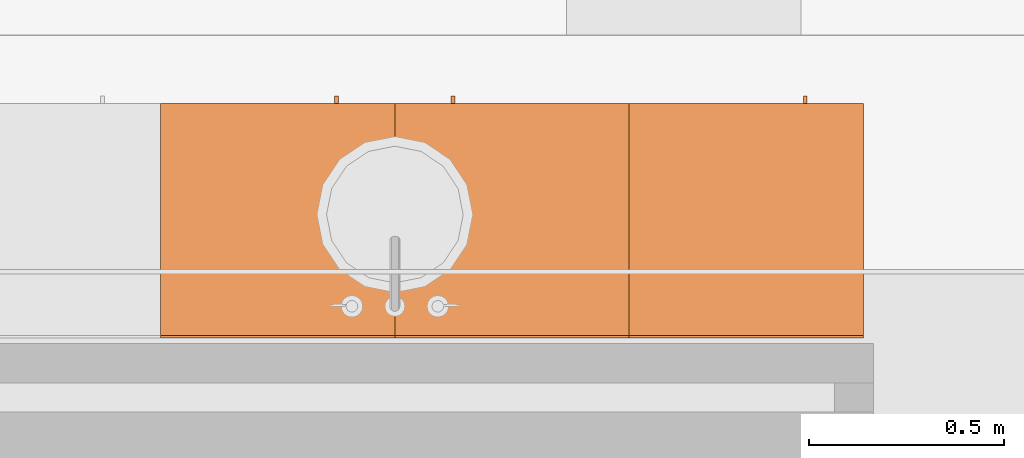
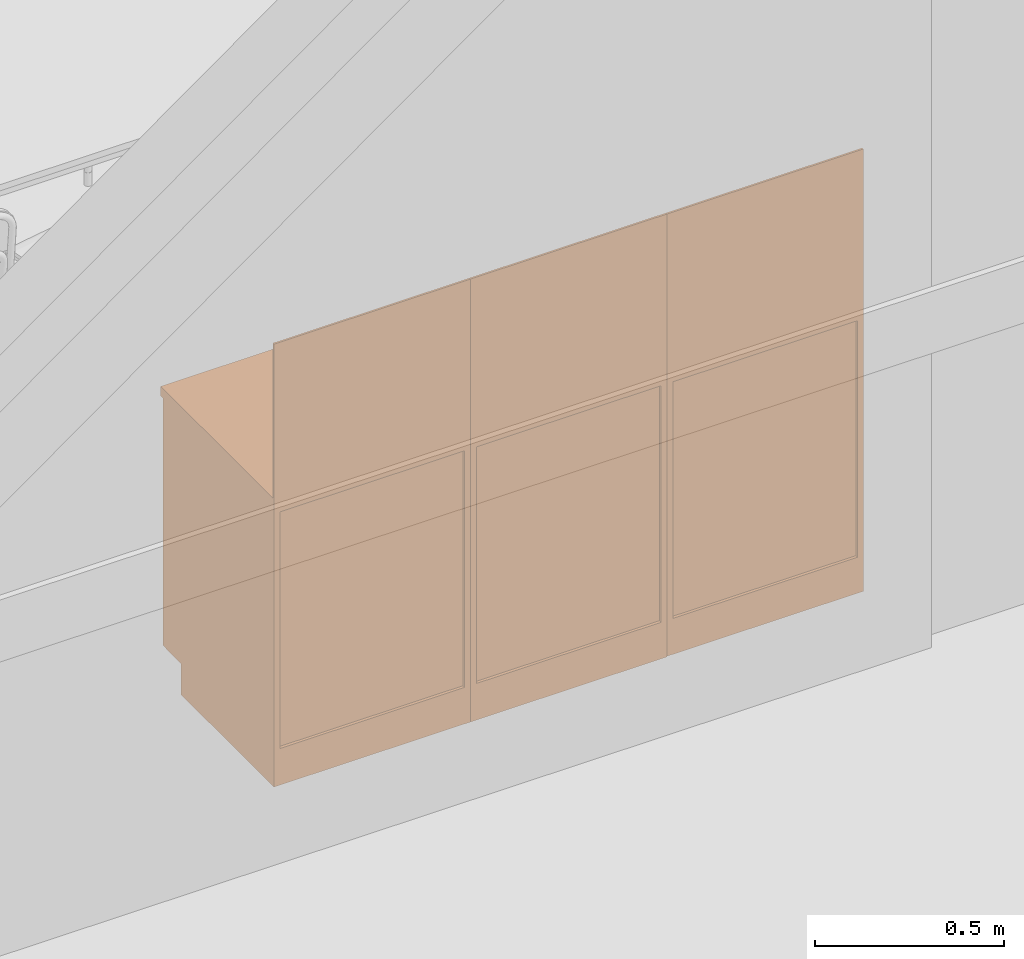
# One storey, part 341 of 347: 3 proxies.
"""IFC2X3 building model written with IfcOpenShell, lengths in millimetres."""

from ifc_helpers import new_model, entity, si_unit, converted_unit, derived_unit, money_unit, direction, frame, origin_with_axes, place, context, subcontext, project, spatial, faceted_brep, type_object, element, save


model = new_model("IFC2X3")

# Units and contexts
model_context = context("Model", 3, precision=0.01, world=origin_with_axes(), true_north=direction((0.0, 1.0)))
plan_context = context("Plan", 3, precision=0.01, world=origin_with_axes(), true_north=direction((0.0, 1.0)))
body_context = subcontext(model_context, "Body", "Model", "MODEL_VIEW")
ifc_project = project(units=[si_unit("LENGTHUNIT", "METRE", prefix="MILLI"), si_unit("AREAUNIT", "SQUARE_METRE"), si_unit("VOLUMEUNIT", "CUBIC_METRE"), converted_unit("PLANEANGLEUNIT", "DEGREE", entity("IfcPlaneAngleMeasure", 0.0174532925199), si_unit("PLANEANGLEUNIT", "RADIAN"), dimensions=[0, 0, 0, 0, 0, 0, 0]), money_unit("EUR"), converted_unit("TIMEUNIT", "Year", entity("IfcTimeMeasure", 31556926.0), si_unit("TIMEUNIT", "SECOND"), dimensions=[0, 0, 1, 0, 0, 0, 0]), si_unit("MASSUNIT", "GRAM", prefix="KILO"), si_unit("THERMODYNAMICTEMPERATUREUNIT", "DEGREE_CELSIUS"), si_unit("LUMINOUSINTENSITYUNIT", "LUMEN"), si_unit("ENERGYUNIT", "JOULE", prefix="MEGA"), derived_unit("THERMALCONDUCTANCEUNIT", [(si_unit("POWERUNIT", "WATT"), 1), (si_unit("LENGTHUNIT", "METRE"), -1), (si_unit("THERMODYNAMICTEMPERATUREUNIT", "KELVIN"), -1)]), derived_unit("SPECIFICHEATCAPACITYUNIT", [(si_unit("ENERGYUNIT", "JOULE"), 1), (si_unit("MASSUNIT", "GRAM", prefix="KILO"), -1), (si_unit("THERMODYNAMICTEMPERATUREUNIT", "KELVIN"), -1)]), derived_unit("MASSDENSITYUNIT", [(si_unit("MASSUNIT", "GRAM", prefix="KILO"), 1), (si_unit("VOLUMEUNIT", "CUBIC_METRE"), -1)])], contexts=[model_context, plan_context])

# Site, building, storey
site_placement = place(None, origin_with_axes())
site = spatial("IfcSite", under=ifc_project, at=site_placement, Name="Site", CompositionType="ELEMENT")
building_placement = place(site_placement, origin_with_axes())
building = spatial("IfcBuilding", under=site, at=building_placement, Name="Naam gebouw", CompositionType="ELEMENT")
storey_placement = place(building_placement, origin_with_axes())
storey = spatial("IfcBuildingStorey", under=building, at=storey_placement, Name="begane grond", CompositionType="ELEMENT", Elevation=0.0)

# Proxies
building_element_proxy_type = type_object("IfcBuildingElementProxyType", Name="Onderkast recht 25", PredefinedType="NOTDEFINED")
proxy_1_placement = place(storey_placement, frame((27885.0, 14715.0, 0.0), z_axis=(0.0, 0.0, 1.0), x_axis=(-1.0, 0.0, 0.0)))
element("IfcBuildingElementProxy", 1, at=proxy_1_placement, inside=storey, type_object=building_element_proxy_type, Name="_73 pantryblok", context=body_context, shape_type="Brep", body=[
    faceted_brep([(-600.0, 0.0, 2.0), (-600.0, -492.0, 2.0), (-600.0, -492.0, 100.0), (-600.0, 0.0, 100.0), (0.0, -492.0, 2.0), (0.0, 0.0, 2.0), (0.0, -492.0, 100.0), (0.0, 0.0, 100.0)], [[[0, 1, 2, 3]], [[4, 1, 0, 5]], [[1, 4, 6, 2]], [[2, 6, 7, 3]], [[5, 0, 3, 7]], [[4, 5, 7, 6]]]),
    faceted_brep([(0.0, -600.0, 900.0), (0.0, -600.0, 930.0), (-600.0, -600.0, 930.0), (-600.0, -600.0, 900.0), (0.0, 0.0, 900.0), (0.0, 0.0, 930.0), (-600.0, 0.0, 930.0), (-600.0, 0.0, 900.0)], [[[0, 1, 2, 3]], [[4, 5, 1, 0]], [[1, 5, 6, 2]], [[3, 2, 6, 7]], [[0, 3, 7, 4]], [[7, 6, 5, 4]]]),
    faceted_brep([(-600.0, 0.0, 930.0), (0.0, 0.0, 930.0), (0.0, -6.0, 930.0), (-600.0, -6.0, 930.0), (-600.0, 0.0, 1430.0), (0.0, 0.0, 1430.0), (0.0, -6.0, 1430.0), (-600.0, -6.0, 1430.0)], [[[0, 1, 2, 3]], [[4, 5, 1, 0]], [[1, 5, 6, 2]], [[3, 2, 6, 7]], [[0, 3, 7, 4]], [[7, 6, 5, 4]]]),
    faceted_brep([(-446.0, -590.0, 416.0), (-456.0, -590.0, 416.0), (-456.0, -590.0, 426.0), (-446.0, -590.0, 426.0), (-446.0, -600.0, 416.0), (-456.0, -600.0, 416.0), (-456.0, -603.472963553, 416.30384494), (-456.0, -606.840402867, 417.206147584), (-456.0, -610.0, 418.679491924), (-456.0, -612.855752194, 420.679111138), (-456.0, -615.320888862, 423.144247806), (-456.0, -617.320508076, 426.0), (-456.0, -618.793852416, 429.159597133), (-456.0, -619.69615506, 432.527036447), (-456.0, -620.0, 436.0), (-456.0, -620.0, 516.0), (-456.0, -619.69615506, 519.472963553), (-456.0, -618.793852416, 522.840402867), (-456.0, -617.320508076, 526.0), (-456.0, -615.320888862, 528.855752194), (-456.0, -612.855752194, 531.320888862), (-456.0, -610.0, 533.320508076), (-456.0, -606.840402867, 534.793852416), (-456.0, -603.472963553, 535.69615506), (-456.0, -600.0, 536.0), (-456.0, -590.0, 536.0), (-456.0, -590.0, 526.0), (-456.0, -600.0, 526.0), (-456.0, -601.736481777, 525.84807753), (-456.0, -603.420201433, 525.396926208), (-456.0, -605.0, 524.660254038), (-456.0, -606.427876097, 523.660444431), (-456.0, -607.660444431, 522.427876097), (-456.0, -608.660254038, 521.0), (-456.0, -609.396926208, 519.420201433), (-456.0, -609.84807753, 517.736481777), (-456.0, -610.0, 516.0), (-456.0, -610.0, 436.0), (-456.0, -609.84807753, 434.263518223), (-456.0, -609.396926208, 432.579798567), (-456.0, -608.660254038, 431.0), (-456.0, -607.660444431, 429.572123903), (-456.0, -606.427876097, 428.339555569), (-456.0, -605.0, 427.339745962), (-456.0, -603.420201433, 426.603073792), (-456.0, -601.736481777, 426.15192247), (-456.0, -600.0, 426.0), (-446.0, -600.0, 426.0), (-446.0, -601.736481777, 426.15192247), (-446.0, -603.420201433, 426.603073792), (-446.0, -605.0, 427.339745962), (-446.0, -606.427876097, 428.339555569), (-446.0, -607.660444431, 429.572123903), (-446.0, -608.660254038, 431.0), (-446.0, -609.396926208, 432.579798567), (-446.0, -609.84807753, 434.263518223), (-446.0, -610.0, 436.0), (-446.0, -610.0, 516.0), (-446.0, -609.84807753, 517.736481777), (-446.0, -609.396926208, 519.420201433), (-446.0, -608.660254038, 521.0), (-446.0, -607.660444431, 522.427876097), (-446.0, -606.427876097, 523.660444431), (-446.0, -605.0, 524.660254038), (-446.0, -603.420201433, 525.396926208), (-446.0, -601.736481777, 525.84807753), (-446.0, -600.0, 526.0), (-446.0, -590.0, 526.0), (-446.0, -590.0, 536.0), (-446.0, -600.0, 536.0), (-446.0, -603.472963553, 535.69615506), (-446.0, -606.840402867, 534.793852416), (-446.0, -610.0, 533.320508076), (-446.0, -612.855752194, 531.320888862), (-446.0, -615.320888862, 528.855752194), (-446.0, -617.320508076, 526.0), (-446.0, -618.793852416, 522.840402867), (-446.0, -619.69615506, 519.472963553), (-446.0, -620.0, 516.0), (-446.0, -620.0, 436.0), (-446.0, -619.69615506, 432.527036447), (-446.0, -618.793852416, 429.159597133), (-446.0, -617.320508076, 426.0), (-446.0, -615.320888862, 423.144247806), (-446.0, -612.855752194, 420.679111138), (-446.0, -610.0, 418.679491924), (-446.0, -606.840402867, 417.206147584), (-446.0, -603.472963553, 416.30384494)], [[[0, 1, 2, 3]], [[4, 5, 1, 0]], [[1, 5, 6, 7, 8, 9, 10, 11, 12, 13, 14, 15, 16, 17, 18, 19, 20, 21, 22, 23, 24, 25, 26, 27, 28, 29, 30, 31, 32, 33, 34, 35, 36, 37, 38, 39, 40, 41, 42, 43, 44, 45, 46, 2]], [[3, 2, 46, 47]], [[0, 3, 47, 48, 49, 50, 51, 52, 53, 54, 55, 56, 57, 58, 59, 60, 61, 62, 63, 64, 65, 66, 67, 68, 69, 70, 71, 72, 73, 74, 75, 76, 77, 78, 79, 80, 81, 82, 83, 84, 85, 86, 87, 4]], [[87, 6, 5, 4]], [[86, 7, 6, 87]], [[85, 8, 7, 86]], [[84, 9, 8, 85]], [[83, 10, 9, 84]], [[82, 11, 10, 83]], [[81, 12, 11, 82]], [[80, 13, 12, 81]], [[79, 14, 13, 80]], [[78, 15, 14, 79]], [[77, 16, 15, 78]], [[76, 17, 16, 77]], [[75, 18, 17, 76]], [[74, 19, 18, 75]], [[73, 20, 19, 74]], [[72, 21, 20, 73]], [[71, 22, 21, 72]], [[70, 23, 22, 71]], [[69, 24, 23, 70]], [[68, 25, 24, 69]], [[67, 26, 25, 68]], [[66, 27, 26, 67]], [[65, 28, 27, 66]], [[64, 29, 28, 65]], [[63, 30, 29, 64]], [[62, 31, 30, 63]], [[61, 32, 31, 62]], [[60, 33, 32, 61]], [[59, 34, 33, 60]], [[58, 35, 34, 59]], [[57, 36, 35, 58]], [[56, 37, 36, 57]], [[55, 38, 37, 56]], [[54, 39, 38, 55]], [[53, 40, 39, 54]], [[52, 41, 40, 53]], [[51, 42, 41, 52]], [[50, 43, 42, 51]], [[49, 44, 43, 50]], [[48, 45, 44, 49]], [[47, 46, 45, 48]]]),
    faceted_brep([(-1.0, -572.0, 101.0), (-1.0, -590.0, 101.0), (-599.0, -590.0, 101.0), (-599.0, -572.0, 101.0), (-1.0, -572.0, 899.0), (-1.0, -590.0, 899.0), (-599.0, -590.0, 899.0), (-599.0, -572.0, 899.0)], [[[0, 1, 2, 3]], [[4, 5, 1, 0]], [[1, 5, 6, 2]], [[3, 2, 6, 7]], [[0, 3, 7, 4]], [[7, 6, 5, 4]]]),
    faceted_brep([(-18.0, -572.0, 100.0), (-18.0, -572.0, 118.0), (-582.0, -572.0, 118.0), (-582.0, -572.0, 100.0), (-18.0, 0.0, 100.0), (-18.0, 0.0, 118.0), (-582.0, 0.0, 118.0), (-582.0, 0.0, 100.0)], [[[0, 1, 2, 3]], [[4, 5, 1, 0]], [[1, 5, 6, 2]], [[3, 2, 6, 7]], [[0, 3, 7, 4]], [[7, 6, 5, 4]]]),
    faceted_brep([(-18.0, -572.0, 882.0), (-582.0, -572.0, 882.0), (-582.0, -512.0, 882.0), (-18.0, -512.0, 882.0), (-18.0, -572.0, 900.0), (-582.0, -572.0, 900.0), (-582.0, -512.0, 900.0), (-18.0, -512.0, 900.0)], [[[0, 1, 2, 3]], [[4, 5, 1, 0]], [[1, 5, 6, 2]], [[3, 2, 6, 7]], [[0, 3, 7, 4]], [[7, 6, 5, 4]]]),
    faceted_brep([(-582.0, 0.0, 882.0), (-18.0, 0.0, 882.0), (-18.0, -60.0, 882.0), (-582.0, -60.0, 882.0), (-582.0, 0.0, 900.0), (-18.0, 0.0, 900.0), (-18.0, -60.0, 900.0), (-582.0, -60.0, 900.0)], [[[0, 1, 2, 3]], [[4, 5, 1, 0]], [[1, 5, 6, 2]], [[3, 2, 6, 7]], [[0, 3, 7, 4]], [[7, 6, 5, 4]]]),
    faceted_brep([(0.0, 0.0, 100.0), (0.0, 0.0, 900.0), (0.0, -572.0, 900.0), (0.0, -572.0, 100.0), (-18.0, 0.0, 100.0), (-18.0, 0.0, 900.0), (-18.0, -572.0, 900.0), (-18.0, -572.0, 100.0)], [[[0, 1, 2, 3]], [[4, 5, 1, 0]], [[1, 5, 6, 2]], [[3, 2, 6, 7]], [[0, 3, 7, 4]], [[7, 6, 5, 4]]]),
    faceted_brep([(-600.0, -572.0, 100.0), (-600.0, -572.0, 900.0), (-600.0, 0.0, 900.0), (-600.0, 0.0, 100.0), (-582.0, -572.0, 100.0), (-582.0, -572.0, 900.0), (-582.0, 0.0, 900.0), (-582.0, 0.0, 100.0)], [[[0, 1, 2, 3]], [[4, 5, 1, 0]], [[1, 5, 6, 2]], [[3, 2, 6, 7]], [[0, 3, 7, 4]], [[7, 6, 5, 4]]]),
    faceted_brep([(-582.0, -9.0, 118.0), (-582.0, -9.0, 882.0), (-18.0, -9.0, 882.0), (-18.0, -9.0, 118.0), (-582.0, -18.0, 118.0), (-582.0, -18.0, 882.0), (-18.0, -18.0, 882.0), (-18.0, -18.0, 118.0)], [[[0, 1, 2, 3]], [[4, 5, 1, 0]], [[1, 5, 6, 2]], [[3, 2, 6, 7]], [[0, 3, 7, 4]], [[7, 6, 5, 4]]]),
])
proxy_2_placement = place(storey_placement, frame((27885.0, 14715.0, 0.0), z_axis=(0.0, 0.0, 1.0), x_axis=(-1.0, 0.0, 0.0)))
element("IfcBuildingElementProxy", 2, at=proxy_2_placement, inside=storey, type_object=building_element_proxy_type, Name="_73 pantryblok", context=body_context, shape_type="Brep", body=[
    faceted_brep([(472.720779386, -443.066584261, 930.0), (433.701684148, -384.670381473, 930.0), (420.0, -315.787363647, 930.0), (433.701684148, -246.904345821, 930.0), (472.720779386, -188.508143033, 930.0), (531.116982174, -149.489047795, 930.0), (600.0, -135.787363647, 930.0), (600.0, 0.0, 930.0), (0.0, 0.0, 930.0), (0.0, -600.0, 930.0), (600.0, -600.0, 930.0), (600.0, -495.787363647, 930.0), (531.116982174, -482.085679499, 930.0), (472.720779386, -443.066584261, 900.0), (433.701684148, -384.670381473, 900.0), (420.0, -315.787363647, 900.0), (433.701684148, -246.904345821, 900.0), (472.720779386, -188.508143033, 900.0), (531.116982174, -149.489047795, 900.0), (600.0, -135.787363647, 900.0), (600.0, 0.0, 900.0), (0.0, 0.0, 900.0), (0.0, -600.0, 900.0), (600.0, -600.0, 900.0), (600.0, -495.787363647, 900.0), (531.116982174, -482.085679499, 900.0)], [[[0, 1, 2, 3, 4, 5, 6, 7, 8, 9, 10, 11, 12]], [[1, 0, 13, 14]], [[2, 1, 14, 15]], [[3, 2, 15, 16]], [[4, 3, 16, 17]], [[5, 4, 17, 18]], [[6, 5, 18, 19]], [[6, 19, 20, 7]], [[7, 20, 21, 8]], [[8, 21, 22, 9]], [[9, 22, 23, 10]], [[24, 11, 10, 23]], [[12, 11, 24, 25]], [[0, 12, 25, 13]], [[25, 24, 23, 22, 21, 20, 19, 18, 17, 16, 15, 14, 13]]]),
    faceted_brep([(582.0, -572.0, 882.0), (18.0, -572.0, 882.0), (18.0, -512.0, 882.0), (582.0, -512.0, 882.0), (582.0, -572.0, 900.0), (18.0, -572.0, 900.0), (18.0, -512.0, 900.0), (582.0, -512.0, 900.0)], [[[0, 1, 2, 3]], [[4, 5, 1, 0]], [[2, 1, 5, 6]], [[3, 2, 6, 7]], [[4, 0, 3, 7]], [[7, 6, 5, 4]]]),
    faceted_brep([(582.0, -9.0, 882.0), (582.0, -9.0, 118.0), (18.0, -9.0, 118.0), (18.0, -9.0, 882.0), (582.0, -18.0, 882.0), (582.0, -18.0, 118.0), (18.0, -18.0, 118.0), (18.0, -18.0, 882.0)], [[[0, 1, 2, 3]], [[4, 5, 1, 0]], [[2, 1, 5, 6]], [[3, 2, 6, 7]], [[4, 0, 3, 7]], [[7, 6, 5, 4]]]),
    faceted_brep([(18.0, 0.0, 882.0), (582.0, 0.0, 882.0), (582.0, -60.0, 882.0), (18.0, -60.0, 882.0), (18.0, 0.0, 900.0), (582.0, 0.0, 900.0), (582.0, -60.0, 900.0), (18.0, -60.0, 900.0)], [[[0, 1, 2, 3]], [[4, 5, 1, 0]], [[2, 1, 5, 6]], [[3, 2, 6, 7]], [[4, 0, 3, 7]], [[7, 6, 5, 4]]]),
    faceted_brep([(0.0, 0.0, 900.0), (0.0, 0.0, 100.0), (0.0, -572.0, 100.0), (0.0, -572.0, 900.0), (18.0, 0.0, 900.0), (18.0, 0.0, 100.0), (18.0, -572.0, 100.0), (18.0, -572.0, 900.0)], [[[0, 1, 2, 3]], [[4, 5, 1, 0]], [[2, 1, 5, 6]], [[3, 2, 6, 7]], [[4, 0, 3, 7]], [[7, 6, 5, 4]]]),
    faceted_brep([(600.0, -495.787363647, 900.0), (582.0, -492.206941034, 900.0), (582.0, -572.0, 900.0), (600.0, -572.0, 900.0), (582.0, -492.206941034, 730.0), (600.0, -495.787363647, 730.0), (582.0, -139.36778626, 730.0), (582.0, -139.36778626, 900.0), (582.0, 0.0, 900.0), (582.0, 0.0, 100.0), (582.0, -572.0, 100.0), (582.0, -226.53045881, 730.0), (582.0, -226.53045881, 710.0), (582.0, -205.044268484, 710.0), (582.0, -205.044268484, 730.0), (600.0, -572.0, 100.0), (600.0, 0.0, 100.0), (600.0, 0.0, 900.0), (600.0, -135.787363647, 900.0), (600.0, -135.787363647, 730.0), (600.0, -194.787363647, 730.0), (600.0, -194.787363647, 710.0), (600.0, -236.787363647, 710.0), (600.0, -236.787363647, 730.0), (594.564800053, -236.071805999, 730.0), (589.5, -233.973897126, 730.0), (585.150757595, -230.636606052, 730.0), (585.150757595, -230.636606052, 710.0), (589.5, -233.973897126, 710.0), (594.564800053, -236.071805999, 710.0), (594.564800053, -195.502921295, 710.0), (589.5, -197.600830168, 710.0), (585.150757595, -200.938121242, 710.0), (585.150757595, -200.938121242, 730.0), (589.5, -197.600830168, 730.0), (594.564800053, -195.502921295, 730.0)], [[[0, 1, 2, 3]], [[4, 1, 0, 5]], [[6, 7, 8, 9, 10, 2, 1, 4, 11, 12, 13, 14]], [[2, 10, 15, 3]], [[5, 0, 3, 15, 16, 17, 18, 19, 20, 21, 22, 23]], [[11, 4, 5, 23, 24, 25, 26]], [[18, 7, 6, 19]], [[7, 18, 17, 8]], [[17, 16, 9, 8]], [[16, 15, 10, 9]], [[12, 11, 26, 27]], [[13, 12, 27, 28, 29, 22, 21, 30, 31, 32]], [[14, 13, 32, 33]], [[6, 14, 33, 34, 35, 20, 19]], [[20, 35, 30, 21]], [[22, 29, 24, 23]], [[25, 24, 29, 28]], [[26, 25, 28, 27]], [[35, 34, 31, 30]], [[34, 33, 32, 31]]]),
    faceted_brep([(600.0, 0.0, 930.0), (600.0, -6.0, 930.0), (0.0, -6.0, 930.0), (0.0, 0.0, 930.0), (600.0, 0.0, 1430.0), (600.0, -6.0, 1430.0), (0.0, -6.0, 1430.0), (0.0, 0.0, 1430.0)], [[[0, 1, 2, 3]], [[0, 4, 5, 1]], [[1, 5, 6, 2]], [[3, 2, 6, 7]], [[4, 0, 3, 7]], [[5, 4, 7, 6]]]),
    faceted_brep([(446.0, -590.0, 416.0), (446.0, -590.0, 426.0), (456.0, -590.0, 426.0), (456.0, -590.0, 416.0), (446.0, -600.0, 416.0), (446.0, -603.472963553, 416.30384494), (446.0, -606.840402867, 417.206147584), (446.0, -610.0, 418.679491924), (446.0, -612.855752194, 420.679111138), (446.0, -615.320888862, 423.144247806), (446.0, -617.320508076, 426.0), (446.0, -618.793852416, 429.159597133), (446.0, -619.69615506, 432.527036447), (446.0, -620.0, 436.0), (446.0, -620.0, 516.0), (446.0, -619.69615506, 519.472963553), (446.0, -618.793852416, 522.840402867), (446.0, -617.320508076, 526.0), (446.0, -615.320888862, 528.855752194), (446.0, -612.855752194, 531.320888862), (446.0, -610.0, 533.320508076), (446.0, -606.840402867, 534.793852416), (446.0, -603.472963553, 535.69615506), (446.0, -600.0, 536.0), (446.0, -590.0, 536.0), (446.0, -590.0, 526.0), (446.0, -600.0, 526.0), (446.0, -601.736481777, 525.84807753), (446.0, -603.420201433, 525.396926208), (446.0, -605.0, 524.660254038), (446.0, -606.427876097, 523.660444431), (446.0, -607.660444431, 522.427876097), (446.0, -608.660254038, 521.0), (446.0, -609.396926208, 519.420201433), (446.0, -609.84807753, 517.736481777), (446.0, -610.0, 516.0), (446.0, -610.0, 436.0), (446.0, -609.84807753, 434.263518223), (446.0, -609.396926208, 432.579798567), (446.0, -608.660254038, 431.0), (446.0, -607.660444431, 429.572123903), (446.0, -606.427876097, 428.339555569), (446.0, -605.0, 427.339745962), (446.0, -603.420201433, 426.603073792), (446.0, -601.736481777, 426.15192247), (446.0, -600.0, 426.0), (456.0, -600.0, 426.0), (456.0, -601.736481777, 426.15192247), (456.0, -603.420201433, 426.603073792), (456.0, -605.0, 427.339745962), (456.0, -606.427876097, 428.339555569), (456.0, -607.660444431, 429.572123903), (456.0, -608.660254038, 431.0), (456.0, -609.396926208, 432.579798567), (456.0, -609.84807753, 434.263518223), (456.0, -610.0, 436.0), (456.0, -610.0, 516.0), (456.0, -609.84807753, 517.736481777), (456.0, -609.396926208, 519.420201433), (456.0, -608.660254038, 521.0), (456.0, -607.660444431, 522.427876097), (456.0, -606.427876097, 523.660444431), (456.0, -605.0, 524.660254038), (456.0, -603.420201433, 525.396926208), (456.0, -601.736481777, 525.84807753), (456.0, -600.0, 526.0), (456.0, -590.0, 526.0), (456.0, -590.0, 536.0), (456.0, -600.0, 536.0), (456.0, -603.472963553, 535.69615506), (456.0, -606.840402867, 534.793852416), (456.0, -610.0, 533.320508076), (456.0, -612.855752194, 531.320888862), (456.0, -615.320888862, 528.855752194), (456.0, -617.320508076, 526.0), (456.0, -618.793852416, 522.840402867), (456.0, -619.69615506, 519.472963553), (456.0, -620.0, 516.0), (456.0, -620.0, 436.0), (456.0, -619.69615506, 432.527036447), (456.0, -618.793852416, 429.159597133), (456.0, -617.320508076, 426.0), (456.0, -615.320888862, 423.144247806), (456.0, -612.855752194, 420.679111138), (456.0, -610.0, 418.679491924), (456.0, -606.840402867, 417.206147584), (456.0, -603.472963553, 416.30384494), (456.0, -600.0, 416.0)], [[[0, 1, 2, 3]], [[0, 4, 5, 6, 7, 8, 9, 10, 11, 12, 13, 14, 15, 16, 17, 18, 19, 20, 21, 22, 23, 24, 25, 26, 27, 28, 29, 30, 31, 32, 33, 34, 35, 36, 37, 38, 39, 40, 41, 42, 43, 44, 45, 1]], [[1, 45, 46, 2]], [[3, 2, 46, 47, 48, 49, 50, 51, 52, 53, 54, 55, 56, 57, 58, 59, 60, 61, 62, 63, 64, 65, 66, 67, 68, 69, 70, 71, 72, 73, 74, 75, 76, 77, 78, 79, 80, 81, 82, 83, 84, 85, 86, 87]], [[4, 0, 3, 87]], [[5, 4, 87, 86]], [[6, 5, 86, 85]], [[7, 6, 85, 84]], [[8, 7, 84, 83]], [[9, 8, 83, 82]], [[10, 9, 82, 81]], [[11, 10, 81, 80]], [[12, 11, 80, 79]], [[13, 12, 79, 78]], [[14, 13, 78, 77]], [[15, 14, 77, 76]], [[16, 15, 76, 75]], [[17, 16, 75, 74]], [[18, 17, 74, 73]], [[19, 18, 73, 72]], [[20, 19, 72, 71]], [[21, 20, 71, 70]], [[22, 21, 70, 69]], [[23, 22, 69, 68]], [[24, 23, 68, 67]], [[25, 24, 67, 66]], [[26, 25, 66, 65]], [[27, 26, 65, 64]], [[28, 27, 64, 63]], [[29, 28, 63, 62]], [[30, 29, 62, 61]], [[31, 30, 61, 60]], [[32, 31, 60, 59]], [[33, 32, 59, 58]], [[34, 33, 58, 57]], [[35, 34, 57, 56]], [[36, 35, 56, 55]], [[37, 36, 55, 54]], [[38, 37, 54, 53]], [[39, 38, 53, 52]], [[40, 39, 52, 51]], [[41, 40, 51, 50]], [[42, 41, 50, 49]], [[43, 42, 49, 48]], [[44, 43, 48, 47]], [[45, 44, 47, 46]]]),
    faceted_brep([(1.0, -572.0, 101.0), (599.0, -572.0, 101.0), (599.0, -590.0, 101.0), (1.0, -590.0, 101.0), (1.0, -572.0, 899.0), (599.0, -572.0, 899.0), (599.0, -590.0, 899.0), (1.0, -590.0, 899.0)], [[[0, 1, 2, 3]], [[0, 4, 5, 1]], [[1, 5, 6, 2]], [[3, 2, 6, 7]], [[4, 0, 3, 7]], [[5, 4, 7, 6]]]),
    faceted_brep([(18.0, -572.0, 100.0), (582.0, -572.0, 100.0), (582.0, -572.0, 118.0), (18.0, -572.0, 118.0), (18.0, 0.0, 100.0), (582.0, 0.0, 100.0), (582.0, 0.0, 118.0), (18.0, 0.0, 118.0)], [[[0, 1, 2, 3]], [[0, 4, 5, 1]], [[1, 5, 6, 2]], [[3, 2, 6, 7]], [[4, 0, 3, 7]], [[5, 4, 7, 6]]]),
    faceted_brep([(0.0, -492.0, 0.0), (600.0, -492.0, 0.0), (600.0, -492.0, 100.0), (0.0, -492.0, 100.0), (0.0, 0.0, 0.0), (600.0, 0.0, 0.0), (600.0, 0.0, 100.0), (0.0, 0.0, 100.0)], [[[0, 1, 2, 3]], [[0, 4, 5, 1]], [[1, 5, 6, 2]], [[3, 2, 6, 7]], [[4, 0, 3, 7]], [[5, 4, 7, 6]]]),
])
proxy_3_placement = place(storey_placement, frame((26685.0, 14715.0, 0.0), z_axis=(0.0, 0.0, 1.0), x_axis=(-1.0, 0.0, 0.0)))
element("IfcBuildingElementProxy", 3, at=proxy_3_placement, inside=storey, type_object=building_element_proxy_type, Name="_73 pantryblok", context=body_context, shape_type="Brep", body=[
    faceted_brep([(-472.720779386, -443.066584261, 930.0), (-531.116982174, -482.085679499, 930.0), (-600.0, -495.787363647, 930.0), (-600.0, -600.0, 930.0), (0.0, -600.0, 930.0), (0.0, 0.0, 930.0), (-600.0, 0.0, 930.0), (-600.0, -135.787363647, 930.0), (-531.116982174, -149.489047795, 930.0), (-472.720779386, -188.508143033, 930.0), (-433.701684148, -246.904345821, 930.0), (-420.0, -315.787363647, 930.0), (-433.701684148, -384.670381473, 930.0), (-472.720779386, -443.066584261, 900.0), (-531.116982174, -482.085679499, 900.0), (-600.0, -495.787363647, 900.0), (-600.0, -600.0, 900.0), (0.0, -600.0, 900.0), (0.0, 0.0, 900.0), (-600.0, 0.0, 900.0), (-600.0, -135.787363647, 900.0), (-531.116982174, -149.489047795, 900.0), (-472.720779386, -188.508143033, 900.0), (-433.701684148, -246.904345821, 900.0), (-420.0, -315.787363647, 900.0), (-433.701684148, -384.670381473, 900.0)], [[[0, 1, 2, 3, 4, 5, 6, 7, 8, 9, 10, 11, 12]], [[1, 0, 13, 14]], [[2, 1, 14, 15]], [[2, 15, 16, 3]], [[16, 17, 4, 3]], [[17, 18, 5, 4]], [[18, 19, 6, 5]], [[20, 7, 6, 19]], [[8, 7, 20, 21]], [[9, 8, 21, 22]], [[10, 9, 22, 23]], [[11, 10, 23, 24]], [[12, 11, 24, 25]], [[0, 12, 25, 13]], [[21, 20, 19, 18, 17, 16, 15, 14, 13, 25, 24, 23, 22]]]),
    faceted_brep([(-18.0, -512.0, 882.0), (-18.0, -572.0, 882.0), (-582.0, -572.0, 882.0), (-582.0, -512.0, 882.0), (-18.0, -572.0, 900.0), (-18.0, -512.0, 900.0), (-582.0, -572.0, 900.0), (-582.0, -512.0, 900.0)], [[[0, 1, 2, 3]], [[4, 1, 0, 5]], [[1, 4, 6, 2]], [[3, 2, 6, 7]], [[5, 0, 3, 7]], [[4, 5, 7, 6]]]),
    faceted_brep([(-18.0, -9.0, 118.0), (-582.0, -9.0, 118.0), (-582.0, -9.0, 882.0), (-18.0, -9.0, 882.0), (-582.0, -18.0, 118.0), (-18.0, -18.0, 118.0), (-582.0, -18.0, 882.0), (-18.0, -18.0, 882.0)], [[[0, 1, 2, 3]], [[4, 1, 0, 5]], [[1, 4, 6, 2]], [[3, 2, 6, 7]], [[5, 0, 3, 7]], [[4, 5, 7, 6]]]),
    faceted_brep([(-582.0, -60.0, 882.0), (-582.0, 0.0, 882.0), (-18.0, 0.0, 882.0), (-18.0, -60.0, 882.0), (-582.0, 0.0, 900.0), (-582.0, -60.0, 900.0), (-18.0, 0.0, 900.0), (-18.0, -60.0, 900.0)], [[[0, 1, 2, 3]], [[4, 1, 0, 5]], [[1, 4, 6, 2]], [[3, 2, 6, 7]], [[5, 0, 3, 7]], [[4, 5, 7, 6]]]),
    faceted_brep([(0.0, -572.0, 100.0), (0.0, 0.0, 100.0), (0.0, 0.0, 900.0), (0.0, -572.0, 900.0), (-18.0, 0.0, 100.0), (-18.0, -572.0, 100.0), (-18.0, 0.0, 900.0), (-18.0, -572.0, 900.0)], [[[0, 1, 2, 3]], [[4, 1, 0, 5]], [[1, 4, 6, 2]], [[3, 2, 6, 7]], [[5, 0, 3, 7]], [[4, 5, 7, 6]]]),
    faceted_brep([(-582.0, -492.206941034, 900.0), (-600.0, -495.787363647, 900.0), (-600.0, -572.0, 900.0), (-582.0, -572.0, 900.0), (-582.0, -492.206941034, 730.0), (-600.0, -495.787363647, 730.0), (-600.0, -135.787363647, 730.0), (-600.0, -135.787363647, 900.0), (-600.0, 0.0, 900.0), (-600.0, 0.0, 100.0), (-600.0, -572.0, 100.0), (-600.0, -236.787363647, 730.0), (-600.0, -236.787363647, 710.0), (-600.0, -194.787363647, 710.0), (-600.0, -194.787363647, 730.0), (-582.0, -572.0, 100.0), (-582.0, 0.0, 100.0), (-582.0, 0.0, 900.0), (-582.0, -139.36778626, 900.0), (-582.0, -139.36778626, 730.0), (-582.0, -205.044268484, 730.0), (-582.0, -205.044268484, 710.0), (-582.0, -226.53045881, 710.0), (-582.0, -226.53045881, 730.0), (-585.150757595, -230.636606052, 730.0), (-589.5, -233.973897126, 730.0), (-594.564800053, -236.071805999, 730.0), (-594.564800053, -236.071805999, 710.0), (-589.5, -233.973897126, 710.0), (-585.150757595, -230.636606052, 710.0), (-585.150757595, -200.938121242, 710.0), (-589.5, -197.600830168, 710.0), (-594.564800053, -195.502921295, 710.0), (-594.564800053, -195.502921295, 730.0), (-589.5, -197.600830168, 730.0), (-585.150757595, -200.938121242, 730.0)], [[[0, 1, 2, 3]], [[1, 0, 4, 5]], [[6, 7, 8, 9, 10, 2, 1, 5, 11, 12, 13, 14]], [[10, 15, 3, 2]], [[4, 0, 3, 15, 16, 17, 18, 19, 20, 21, 22, 23]], [[11, 5, 4, 23, 24, 25, 26]], [[18, 7, 6, 19]], [[7, 18, 17, 8]], [[16, 9, 8, 17]], [[15, 10, 9, 16]], [[11, 26, 27, 12]], [[13, 12, 27, 28, 29, 22, 21, 30, 31, 32]], [[33, 14, 13, 32]], [[6, 14, 33, 34, 35, 20, 19]], [[21, 20, 35, 30]], [[23, 22, 29, 24]], [[25, 24, 29, 28]], [[26, 25, 28, 27]], [[35, 34, 31, 30]], [[34, 33, 32, 31]]]),
    faceted_brep([(-600.0, 0.0, 930.0), (0.0, 0.0, 930.0), (0.0, -6.0, 930.0), (-600.0, -6.0, 930.0), (-600.0, 0.0, 1430.0), (0.0, 0.0, 1430.0), (0.0, -6.0, 1430.0), (-600.0, -6.0, 1430.0)], [[[0, 1, 2, 3]], [[4, 5, 1, 0]], [[1, 5, 6, 2]], [[3, 2, 6, 7]], [[0, 3, 7, 4]], [[7, 6, 5, 4]]]),
    faceted_brep([(-446.0, -590.0, 416.0), (-456.0, -590.0, 416.0), (-456.0, -590.0, 426.0), (-446.0, -590.0, 426.0), (-446.0, -600.0, 416.0), (-456.0, -600.0, 416.0), (-456.0, -603.472963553, 416.30384494), (-456.0, -606.840402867, 417.206147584), (-456.0, -610.0, 418.679491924), (-456.0, -612.855752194, 420.679111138), (-456.0, -615.320888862, 423.144247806), (-456.0, -617.320508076, 426.0), (-456.0, -618.793852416, 429.159597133), (-456.0, -619.69615506, 432.527036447), (-456.0, -620.0, 436.0), (-456.0, -620.0, 516.0), (-456.0, -619.69615506, 519.472963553), (-456.0, -618.793852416, 522.840402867), (-456.0, -617.320508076, 526.0), (-456.0, -615.320888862, 528.855752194), (-456.0, -612.855752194, 531.320888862), (-456.0, -610.0, 533.320508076), (-456.0, -606.840402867, 534.793852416), (-456.0, -603.472963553, 535.69615506), (-456.0, -600.0, 536.0), (-456.0, -590.0, 536.0), (-456.0, -590.0, 526.0), (-456.0, -600.0, 526.0), (-456.0, -601.736481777, 525.84807753), (-456.0, -603.420201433, 525.396926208), (-456.0, -605.0, 524.660254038), (-456.0, -606.427876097, 523.660444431), (-456.0, -607.660444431, 522.427876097), (-456.0, -608.660254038, 521.0), (-456.0, -609.396926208, 519.420201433), (-456.0, -609.84807753, 517.736481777), (-456.0, -610.0, 516.0), (-456.0, -610.0, 436.0), (-456.0, -609.84807753, 434.263518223), (-456.0, -609.396926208, 432.579798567), (-456.0, -608.660254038, 431.0), (-456.0, -607.660444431, 429.572123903), (-456.0, -606.427876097, 428.339555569), (-456.0, -605.0, 427.339745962), (-456.0, -603.420201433, 426.603073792), (-456.0, -601.736481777, 426.15192247), (-456.0, -600.0, 426.0), (-446.0, -600.0, 426.0), (-446.0, -601.736481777, 426.15192247), (-446.0, -603.420201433, 426.603073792), (-446.0, -605.0, 427.339745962), (-446.0, -606.427876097, 428.339555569), (-446.0, -607.660444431, 429.572123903), (-446.0, -608.660254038, 431.0), (-446.0, -609.396926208, 432.579798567), (-446.0, -609.84807753, 434.263518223), (-446.0, -610.0, 436.0), (-446.0, -610.0, 516.0), (-446.0, -609.84807753, 517.736481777), (-446.0, -609.396926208, 519.420201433), (-446.0, -608.660254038, 521.0), (-446.0, -607.660444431, 522.427876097), (-446.0, -606.427876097, 523.660444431), (-446.0, -605.0, 524.660254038), (-446.0, -603.420201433, 525.396926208), (-446.0, -601.736481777, 525.84807753), (-446.0, -600.0, 526.0), (-446.0, -590.0, 526.0), (-446.0, -590.0, 536.0), (-446.0, -600.0, 536.0), (-446.0, -603.472963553, 535.69615506), (-446.0, -606.840402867, 534.793852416), (-446.0, -610.0, 533.320508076), (-446.0, -612.855752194, 531.320888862), (-446.0, -615.320888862, 528.855752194), (-446.0, -617.320508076, 526.0), (-446.0, -618.793852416, 522.840402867), (-446.0, -619.69615506, 519.472963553), (-446.0, -620.0, 516.0), (-446.0, -620.0, 436.0), (-446.0, -619.69615506, 432.527036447), (-446.0, -618.793852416, 429.159597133), (-446.0, -617.320508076, 426.0), (-446.0, -615.320888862, 423.144247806), (-446.0, -612.855752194, 420.679111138), (-446.0, -610.0, 418.679491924), (-446.0, -606.840402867, 417.206147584), (-446.0, -603.472963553, 416.30384494)], [[[0, 1, 2, 3]], [[4, 5, 1, 0]], [[1, 5, 6, 7, 8, 9, 10, 11, 12, 13, 14, 15, 16, 17, 18, 19, 20, 21, 22, 23, 24, 25, 26, 27, 28, 29, 30, 31, 32, 33, 34, 35, 36, 37, 38, 39, 40, 41, 42, 43, 44, 45, 46, 2]], [[3, 2, 46, 47]], [[0, 3, 47, 48, 49, 50, 51, 52, 53, 54, 55, 56, 57, 58, 59, 60, 61, 62, 63, 64, 65, 66, 67, 68, 69, 70, 71, 72, 73, 74, 75, 76, 77, 78, 79, 80, 81, 82, 83, 84, 85, 86, 87, 4]], [[87, 6, 5, 4]], [[86, 7, 6, 87]], [[85, 8, 7, 86]], [[84, 9, 8, 85]], [[83, 10, 9, 84]], [[82, 11, 10, 83]], [[81, 12, 11, 82]], [[80, 13, 12, 81]], [[79, 14, 13, 80]], [[78, 15, 14, 79]], [[77, 16, 15, 78]], [[76, 17, 16, 77]], [[75, 18, 17, 76]], [[74, 19, 18, 75]], [[73, 20, 19, 74]], [[72, 21, 20, 73]], [[71, 22, 21, 72]], [[70, 23, 22, 71]], [[69, 24, 23, 70]], [[68, 25, 24, 69]], [[67, 26, 25, 68]], [[66, 27, 26, 67]], [[65, 28, 27, 66]], [[64, 29, 28, 65]], [[63, 30, 29, 64]], [[62, 31, 30, 63]], [[61, 32, 31, 62]], [[60, 33, 32, 61]], [[59, 34, 33, 60]], [[58, 35, 34, 59]], [[57, 36, 35, 58]], [[56, 37, 36, 57]], [[55, 38, 37, 56]], [[54, 39, 38, 55]], [[53, 40, 39, 54]], [[52, 41, 40, 53]], [[51, 42, 41, 52]], [[50, 43, 42, 51]], [[49, 44, 43, 50]], [[48, 45, 44, 49]], [[47, 46, 45, 48]]]),
    faceted_brep([(-1.0, -572.0, 101.0), (-1.0, -590.0, 101.0), (-599.0, -590.0, 101.0), (-599.0, -572.0, 101.0), (-1.0, -572.0, 899.0), (-1.0, -590.0, 899.0), (-599.0, -590.0, 899.0), (-599.0, -572.0, 899.0)], [[[0, 1, 2, 3]], [[4, 5, 1, 0]], [[1, 5, 6, 2]], [[3, 2, 6, 7]], [[0, 3, 7, 4]], [[7, 6, 5, 4]]]),
    faceted_brep([(-18.0, -572.0, 100.0), (-18.0, -572.0, 118.0), (-582.0, -572.0, 118.0), (-582.0, -572.0, 100.0), (-18.0, 0.0, 100.0), (-18.0, 0.0, 118.0), (-582.0, 0.0, 118.0), (-582.0, 0.0, 100.0)], [[[0, 1, 2, 3]], [[4, 5, 1, 0]], [[1, 5, 6, 2]], [[3, 2, 6, 7]], [[0, 3, 7, 4]], [[7, 6, 5, 4]]]),
    faceted_brep([(0.0, -492.0, 0.0), (0.0, -492.0, 100.0), (-600.0, -492.0, 100.0), (-600.0, -492.0, 0.0), (0.0, 0.0, 0.0), (0.0, 0.0, 100.0), (-600.0, 0.0, 100.0), (-600.0, 0.0, 0.0)], [[[0, 1, 2, 3]], [[4, 5, 1, 0]], [[1, 5, 6, 2]], [[3, 2, 6, 7]], [[0, 3, 7, 4]], [[7, 6, 5, 4]]]),
])

save(model, "model.ifc")
